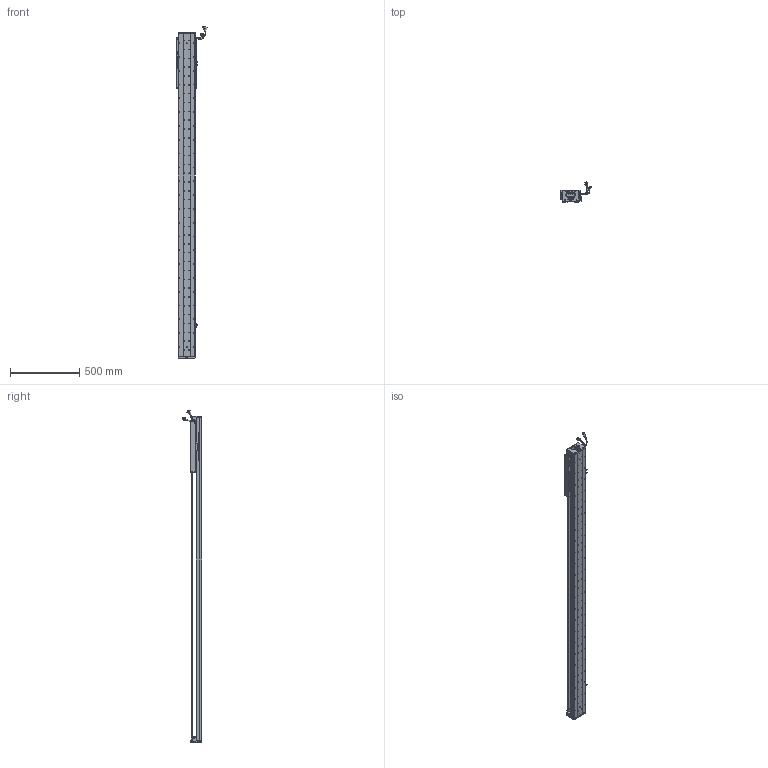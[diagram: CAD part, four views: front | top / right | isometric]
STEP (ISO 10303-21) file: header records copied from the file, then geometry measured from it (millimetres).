
FILE_DESCRIPTION (( 'STEP AP203' ), '1' );
FILE_NAME ('Z5-RY120D-1-L500-B-K.SLDASM_1900.step', '2021-05-17T06:24:12', ( '盈信电脑' ), ( '东莞市道滘镇水果街19号' ), 'SwSTEP 2.0', 'SolidWorks 2016', '' );
FILE_SCHEMA (( 'CONFIG_CONTROL_DESIGN' ));
Length unit declared in the file: millimetre
Products named in the file (37): HOLDER0; SCALE-Part-2; LABEL; Z-RY120D詩湍狟揤裔; Z5-RY120-500-倰第菁釱_1900; SHIELDPLATE; 120-Z-臏賑輸盄裔(21遴); SCREW-M1.6-1; 140雄赽晤鎢ん堤盄; 覜茼ん672; Z5-RY120-L500詩湍100mm遵_1900; HARNESS-Part-1; SEAL; LABEL-Part-1; RY100FB-遵嫖萇覜茼え; SCALE; COVER; Z-120詩湍傷裔啣; Z-RY120D詩湍奻揤裔; COVER-Part-1; SCREW-M1.7; 672嫖萇羲壽假蚾釱; SEAL-Part-1; SCREW-M1.6; SCALE-Part-1; 080黍杅芛假蚾釱21遴; 140蚥薯蝶輸; 榋妏寠巭燃_暯_M2_2; Z5-RY120铝滑块（21款）; SCREW-M1.6-3; HARNESS-Part-2; Z5-RY120D-1-L500-B-K.SLDASM_1900; PBU_SHEET; HARNESS; PSLH080_PSLF2; SCREW-M1.7-1; SCREW-M1.6-2
Assembly tree (43 placements, depth 4):
  Z5-RY120D-1-L500-B-K.SLDASM_1900
    Z5-RY120-500-倰第菁釱_1900
    覜茼ん672  x3
    672嫖萇羲壽假蚾釱  x2
    Z5-RY120铝滑块（21款）
    PSLH080_PSLF2
      SCALE
        SCALE-Part-1
        SCALE-Part-2
      HARNESS
        HARNESS-Part-1
        HARNESS-Part-2
      LABEL
        LABEL-Part-1
      COVER
        COVER-Part-1
      SEAL
        SEAL-Part-1
      榋妏寠巭燃_暯_M2_2
      SHIELDPLATE
      SCREW-M1.7
      SCREW-M1.7-1
      PBU_SHEET
      SCREW-M1.6
      SCREW-M1.6-1
      SCREW-M1.6-2
      SCREW-M1.6-3
      HOLDER0
    080黍杅芛假蚾釱21遴
    120-Z-臏賑輸盄裔(21遴)
    140雄赽晤鎢ん堤盄
    140蚥薯蝶輸  x2
    RY100FB-遵嫖萇覜茼え
    Z-120詩湍傷裔啣  x2
    Z-RY120D詩湍奻揤裔  x2
    Z-RY120D詩湍狟揤裔  x2
    Z5-RY120-L500詩湍100mm遵_1900
Bounding box: 222.88 x 140.94 x 2403.99 mm (x, y, z)
Volume: 6075734.8 mm3; surface area: 2052152.9 mm2
Topology: 38 solids, 38 shells, 3581 faces, 10087 edges, 6370 vertices
Faces by surface type: cylinder 1863, plane 1234, cone 362, torus 69, bspline 53
Entity records: 118146 total; most frequent: CARTESIAN_POINT 35283, ORIENTED_EDGE 16974, DIRECTION 15827, EDGE_CURVE 8487, AXIS2_PLACEMENT_3D 5868, VERTEX_POINT 5490, LINE 4091, VECTOR 4091
